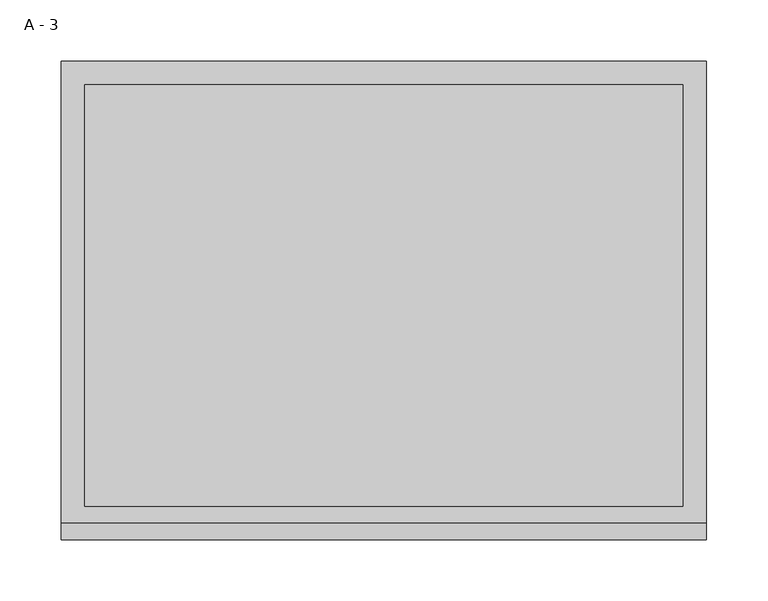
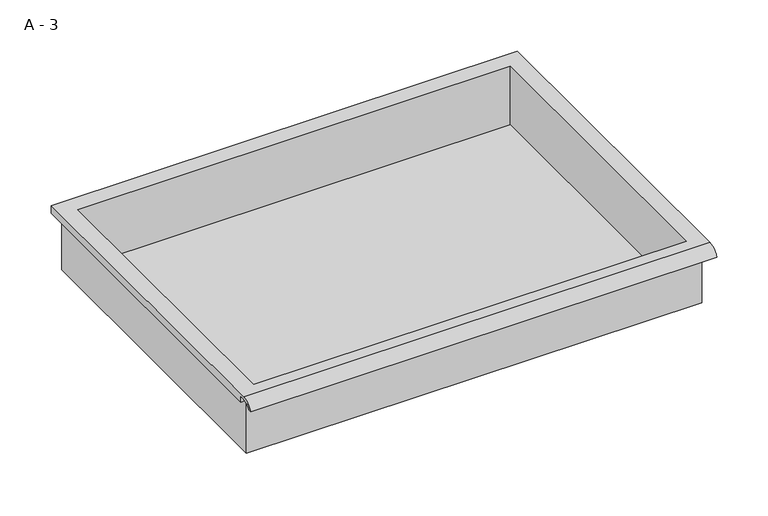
"""IFC4 building model written with IfcOpenShell, lengths in millimetres: furniture geometry, HermanMiller_CoStruc_CO207_Drawer : A - 3."""

import ifcopenshell
import ifcopenshell.guid

model = None  # the IFC model being written
_history = None  # IfcOwnerHistory: only IFC2X3 demands one
_inside = {}  # id of a spatial element -> (the spatial element, [elements in it])
_under = {}  # id of a project, library or spatial element -> (it, [spatial elements below it])
_declared = {}  # id of a project -> (the project, [libraries it declares])
_typed = {}  # id of a type object -> (the type object, [elements of that type])
_made_of = {}  # id of a material, layer set ... -> (it, [elements and type objects made of it])


def new_model(schema):
    """Start an empty IFC model of exactly this schema.

    Asked for "IFC4X3", IfcOpenShell would pick the latest addendum, in which some entities
    have other attributes; the version numbers below select the first issue.
    IFC2X3 requires an IfcOwnerHistory on every rooted entity: one is made here for all.
    """
    global model, _history
    if schema == "IFC4X3":
        model = ifcopenshell.file(schema_version=(4, 3, 0, 0))
    else:
        model = ifcopenshell.file(schema=schema)
    _inside.clear()
    _under.clear()
    _declared.clear()
    _typed.clear()
    _made_of.clear()
    _history = None
    if model.schema == "IFC2X3":
        org = make("IfcOrganization", Name="unknown")
        user = make(
            "IfcPersonAndOrganization",
            ThePerson=make("IfcPerson", FamilyName="unknown"),
            TheOrganization=org,
        )
        app = make(
            "IfcApplication",
            ApplicationDeveloper=org,
            Version="unknown",
            ApplicationFullName="unknown",
            ApplicationIdentifier="unknown",
        )
        _history = make(
            "IfcOwnerHistory",
            OwningUser=user,
            OwningApplication=app,
            ChangeAction="ADDED",
            CreationDate=0,
        )
    return model


def make(cls, **values):
    """One entity of the class cls with the attributes given. An attribute that is None is left unset."""
    return model.create_entity(
        cls, **{name: value for name, value in values.items() if value is not None}
    )


def rooted(cls, **values):
    """An entity with a GlobalId (a new one), such as an element, a storey or a relation."""
    return make(cls, GlobalId=ifcopenshell.guid.new(), OwnerHistory=_history, **values)


def si_unit(unit_type, name, prefix=None):
    """IfcSIUnit, for example si_unit("LENGTHUNIT", "METRE", prefix="MILLI")."""
    return make("IfcSIUnit", UnitType=unit_type, Prefix=prefix, Name=name)


def assignment(units):
    """IfcUnitAssignment: the units of a project."""
    return None if units is None else make("IfcUnitAssignment", Units=units)


def point(xyz):
    """IfcCartesianPoint."""
    return None if xyz is None else make("IfcCartesianPoint", Coordinates=xyz)


def direction(xyz):
    """IfcDirection."""
    return None if xyz is None else make("IfcDirection", DirectionRatios=xyz)


def frame(location, z_axis=None, x_axis=None):
    """IfcAxis2Placement3D, a coordinate frame: its origin and axes. An axis left out is left unset."""
    return make(
        "IfcAxis2Placement3D",
        Location=point(location),
        Axis=direction(z_axis),
        RefDirection=direction(x_axis),
    )


def origin():
    """The frame at (0, 0, 0) with its axes left unset."""
    return frame((0.0, 0.0, 0.0))


def place(relative_to, where):
    """IfcLocalPlacement: puts the frame where relative to a parent placement (None: the world)."""
    return make(
        "IfcLocalPlacement", PlacementRelTo=relative_to, RelativePlacement=where
    )


def context(
    kind, dimensions, precision=None, world=None, true_north=None, identifier=None
):
    """IfcGeometricRepresentationContext, for example the 3D "Model" context."""
    return make(
        "IfcGeometricRepresentationContext",
        ContextIdentifier=identifier,
        ContextType=kind,
        CoordinateSpaceDimension=dimensions,
        Precision=precision,
        WorldCoordinateSystem=world,
        TrueNorth=true_north,
    )


def project(units=None, contexts=None):
    """IfcProject with its units and contexts."""
    return rooted(
        "IfcProject",
        Name="project",
        RepresentationContexts=contexts,
        UnitsInContext=assignment(units),
    )


def spatial(cls, under=None, at=None, **own):
    """A site, building, storey or space (cls), placed at a placement, below another one or the project."""
    s = rooted(cls, ObjectPlacement=at, **own)
    if under is not None:
        _under.setdefault(under.id(), (under, []))[1].append(s)
    return s


def polyline(points):
    """IfcPolyline through the points."""
    return make("IfcPolyline", Points=[point(p) for p in points])


def circle_curve(where, radius):
    """IfcCircle in the frame where."""
    return make("IfcCircle", Position=where, Radius=radius)


def shape(context_of_items, identifier, shape_type, items):
    """IfcShapeRepresentation: the items that make up one representation, for example the "Body"."""
    return make(
        "IfcShapeRepresentation",
        ContextOfItems=context_of_items,
        RepresentationIdentifier=identifier,
        RepresentationType=shape_type,
        Items=items,
    )


def source(mapping_origin, context_of_items, identifier, shape_type, items):
    """IfcRepresentationMap: a shape defined once, which mapped items show again and again."""
    return make(
        "IfcRepresentationMap",
        MappingOrigin=mapping_origin,
        MappedRepresentation=shape(context_of_items, identifier, shape_type, items),
    )


def transform(
    local_origin,
    x_axis=None,
    y_axis=None,
    z_axis=None,
    scale=None,
    scale2=None,
    scale3=None,
    uniform=True,
):
    """IfcCartesianTransformationOperator3D, or its non-uniform kind. x_axis, y_axis, z_axis: its Axis1, 2, 3."""
    if uniform:
        return make(
            "IfcCartesianTransformationOperator3D",
            Axis1=direction(x_axis),
            Axis2=direction(y_axis),
            LocalOrigin=point(local_origin),
            Scale=scale,
            Axis3=direction(z_axis),
        )
    return make(
        "IfcCartesianTransformationOperator3DnonUniform",
        Axis1=direction(x_axis),
        Axis2=direction(y_axis),
        LocalOrigin=point(local_origin),
        Scale=scale,
        Axis3=direction(z_axis),
        Scale2=scale2,
        Scale3=scale3,
    )


def mapped(mapping_source, mapping_target):
    """IfcMappedItem: shows the shape of a source again, moved by a transform."""
    return make(
        "IfcMappedItem", MappingSource=mapping_source, MappingTarget=mapping_target
    )


def made_of(thing, what):
    """Note that an element or type object is made of a material, layer set ...; save() writes the relation."""
    if what is not None:
        _made_of.setdefault(what.id(), (what, []))[1].append(thing)
    return thing


def element(
    cls,
    number,
    at=None,
    inside=None,
    cuts=None,
    type_object=None,
    material=None,
    context=None,
    identifier="Body",
    shape_type=None,
    held_by="IfcProductDefinitionShape",
    body=None,
    shapes=None,
    **own,
):
    """One element of the class cls, such as IfcWall. Its Tag is "e" and its number.

    at: its placement. inside: the storey or other place that contains it. cuts: it is an
    opening in that element (IfcRelVoidsElement). A single representation is given by context,
    identifier, shape_type and body (its items); several are given by shapes. held_by: the class
    of the entity that holds the representations. save() writes the other relations.
    """
    e = rooted(cls, Tag="e%d" % number, ObjectPlacement=at, **own)
    if body is not None:
        shapes = [shape(context, identifier, shape_type, body)]
    if shapes is not None:
        e.Representation = make(held_by, Representations=shapes)
    if inside is not None:
        _inside.setdefault(inside.id(), (inside, []))[1].append(e)
    if cuts is not None:
        rooted(
            "IfcRelVoidsElement", RelatingBuildingElement=cuts, RelatedOpeningElement=e
        )
    if type_object is not None:
        _typed.setdefault(type_object.id(), (type_object, []))[1].append(e)
    return made_of(e, material)


def aggregate(whole, parts):
    """IfcRelAggregates: a whole, such as a stair, and the parts it consists of."""
    return rooted("IfcRelAggregates", RelatingObject=whole, RelatedObjects=parts)


def save(model, path):
    """Write the relations noted so far, then the file.

    IfcRelAggregates (storeys below a building ...), IfcRelContainedInSpatialStructure (elements
    in a storey), IfcRelDefinesByType, IfcRelAssociatesMaterial and IfcRelDeclares: one each for
    every whole, place, type object, material and project.
    """
    for whole, parts in _under.values():
        aggregate(whole, parts)
    for where, things in _inside.values():
        rooted(
            "IfcRelContainedInSpatialStructure",
            RelatedElements=things,
            RelatingStructure=where,
        )
    for kind, things in _typed.values():
        rooted("IfcRelDefinesByType", RelatedObjects=things, RelatingType=kind)
    for what, things in _made_of.values():
        rooted("IfcRelAssociatesMaterial", RelatedObjects=things, RelatingMaterial=what)
    for by, libraries in _declared.values():
        rooted("IfcRelDeclares", RelatingContext=by, RelatedDefinitions=libraries)
    model.write(path)


def plane_surface(at):
    """IfcPlane: the flat surface through the origin of the frame at, square to its z axis."""
    return make("IfcPlane", Position=at)


def cylinder_surface(at, radius):
    """IfcCylindricalSurface: all points at the distance radius from the z axis of the frame at."""
    return make("IfcCylindricalSurface", Position=at, Radius=radius)


def revolved_surface(curve, axis_point, axis_direction):
    """IfcSurfaceOfRevolution: the curve turned about the line through axis_point along axis_direction."""
    return make(
        "IfcSurfaceOfRevolution",
        SweptCurve=make("IfcArbitraryOpenProfileDef", ProfileType="CURVE", Curve=curve),
        AxisPosition=make("IfcAxis1Placement", Location=point(axis_point), Axis=direction(axis_direction)),
    )


def advanced_brep(points, edges, surfaces, faces):
    """IfcAdvancedBrep: a solid bounded by faces that lie on surfaces and meet in shared edges.

    An edge is (start, end): straight between two places in points (the first is 0);
    or (start, end, curve); or (start, end, curve, False) where it runs against its curve.
    A face is (place in surfaces, loops), or (place, loops, False) where it looks against
    its surface's normal. A loop lists edges by number (the first is 1), with a minus sign
    where the edge is run from its end to its start. The first loop is the outer one.
    """
    corners = [point(p) for p in points]
    vertices = [make("IfcVertexPoint", VertexGeometry=c) for c in corners]
    made = []
    for start, end, *more in edges:
        made.append(
            make(
                "IfcEdgeCurve",
                EdgeStart=vertices[start],
                EdgeEnd=vertices[end],
                EdgeGeometry=more[0] if more else make("IfcPolyline", Points=[corners[start], corners[end]]),
                SameSense=more[1] if len(more) > 1 else True,
            )
        )
    hull = []
    for where, loops, *sense in faces:
        bounds = []
        for j, loop in enumerate(loops):
            ring = [make("IfcOrientedEdge", EdgeElement=made[abs(k) - 1], Orientation=k > 0) for k in loop]
            bounds.append(
                make(
                    "IfcFaceOuterBound" if j == 0 else "IfcFaceBound",
                    Bound=make("IfcEdgeLoop", EdgeList=ring),
                    Orientation=True,
                )
            )
        hull.append(make("IfcAdvancedFace", Bounds=bounds, FaceSurface=surfaces[where], SameSense=sense[0] if sense else True))
    return make("IfcAdvancedBrep", Outer=make("IfcClosedShell", CfsFaces=hull))


def a_3_f482e030(model_context):
    return source(origin(), model_context, "Body", "AdvancedBrep", [
        advanced_brep(
        [(-257.1076517, -176.2125, 814.4002), (257.2423483, -176.2125, 814.4002), (257.2423483, -176.2125, 877.9002), (263.5923483, -176.2125, 877.9002), (263.5923483, -176.2125, 884.2073341), (-263.4576517, -176.2125, 884.2073341), (-263.4576517, -176.2125, 877.9002), (-257.1076517, -176.2125, 877.9002), (257.2423483, 185.7375, 814.4002), (-257.1076517, 185.7375, 814.4002), (-257.1076517, 185.7375, 877.9002), (257.2423483, 185.7375, 877.9002), (263.5923483, -181.6070544, 887.4252), (263.5923483, 195.2625, 887.4252), (-263.4576517, 195.2625, 887.4252), (-263.4576517, -181.6070544, 887.4252), (244.5423483, -168.275, 887.4252), (-244.4076517, -168.275, 887.4252), (-244.4076517, 176.2125, 887.4252), (244.5423483, 176.2125, 887.4252), (263.5923483, -195.2625, 877.9002), (263.5923483, -191.8280601, 877.9002), (263.5923483, -180.4714815, 884.2073341), (263.5923483, 195.2625, 877.9002), (-263.4576517, 195.2625, 877.9002), (-263.4576517, -180.4714815, 884.2073341), (-263.4576517, -191.8280601, 877.9002), (-263.4576517, -195.2625, 877.9002), (-244.4076517, -168.275, 817.4263719), (244.5423483, -168.275, 817.4263719), (244.5423483, 176.2125, 817.4263719), (-244.4076517, 176.2125, 817.4263719)],
        [
            (0, 1),
            (1, 2),
            (2, 3),
            (3, 4),
            (4, 5),
            (5, 6),
            (6, 7),
            (7, 0),
            (8, 9),
            (9, 10),
            (10, 11),
            (11, 8),
            (0, 9),
            (8, 1),
            (11, 2),
            (12, 13),
            (13, 14),
            (14, 15),
            (15, 12),
            (16, 17),
            (17, 18),
            (18, 19),
            (19, 16),
            (7, 10),
            (12, 20, circle_curve(frame((263.5923483, -181.6070544, 872.8741859), z_axis=(1.0, 0.0, 0.0), x_axis=(0.0, 1.0, 0.0)), 14.5510141)),
            (20, 21),
            (21, 22, circle_curve(frame((263.5923483, -181.6070544, 872.8741859), z_axis=(-1.0, 0.0, 0.0), x_axis=(0.0, 1.0, 0.0)), 11.3898979)),
            (22, 4),
            (3, 23),
            (23, 13),
            (14, 24),
            (24, 6),
            (5, 25),
            (25, 26, circle_curve(frame((-263.4576517, -181.6070544, 872.8741859), z_axis=(1.0, 0.0, 0.0), x_axis=(0.0, 1.0, 0.0)), 11.3898979)),
            (26, 27),
            (27, 15, circle_curve(frame((-263.4576517, -181.6070544, 872.8741859), z_axis=(-1.0, 0.0, 0.0), x_axis=(0.0, 1.0, 0.0)), 14.5510141)),
            (27, 20),
            (26, 21),
            (25, 22),
            (24, 23),
            (28, 29),
            (29, 30),
            (30, 31),
            (31, 28),
            (28, 17),
            (16, 29),
            (19, 30),
            (18, 31),
        ],
        [
            plane_surface(frame((257.2423483, -176.2125, 814.4002), z_axis=(0.0, -1.0, 0.0), x_axis=(1.0, 0.0, 0.0))),
            plane_surface(frame((257.2423483, 185.7375, 814.4002), z_axis=(0.0, 1.0, 0.0), x_axis=(-1.0, 0.0, 0.0))),
            plane_surface(frame((-257.1076517, -176.2125, 814.4002), z_axis=(0.0, 0.0, -1.0), x_axis=(0.0, 1.0, 0.0))),
            plane_surface(frame((257.2423483, -176.2125, 814.4002), z_axis=(1.0, 0.0, 0.0), x_axis=(0.0, 1.0, 0.0))),
            plane_surface(frame((257.2423483, -176.2125, 887.4252), z_axis=(0.0, 0.0, 1.0), x_axis=(0.0, 1.0, 0.0))),
            plane_surface(frame((-257.1076517, -176.2125, 887.4252), z_axis=(-1.0, 0.0, 0.0), x_axis=(0.0, 1.0, 0.0))),
            plane_surface(frame((263.5923483, 195.2625, 887.4252), z_axis=(1.0, 0.0, 0.0), x_axis=(0.0, -1.0, 0.0))),
            plane_surface(frame((-263.4576517, 195.2625, 887.4252), z_axis=(-1.0, 0.0, 0.0), x_axis=(0.0, 1.0, 0.0))),
            cylinder_surface(frame((-263.4576517, -181.6070544, 872.8741859), z_axis=(1.0, 0.0, 0.0), x_axis=(0.0, 1.0, 0.0)), 14.5510141),
            plane_surface(frame((263.5923483, -195.2625, 877.9002), z_axis=(0.0, -7.172997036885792e-12, -1.0), x_axis=(-1.0, 0.0, 0.0))),
            revolved_surface(polyline([(-263.4576517, -170.21715650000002, 872.8741859), (263.59234829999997, -170.21715650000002, 872.8741859)]), (-263.4576517, -181.6070544, 872.8741859), (-1.0, 0.0, 0.0)),
            plane_surface(frame((263.5923483, -180.4714815, 884.2073341), z_axis=(0.0, -1.773428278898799e-11, -1.0), x_axis=(-1.0, 0.0, 0.0))),
            plane_surface(frame((263.5923483, -176.2125, 877.9002), z_axis=(0.0, 0.0, -1.0), x_axis=(-1.0, 0.0, 0.0))),
            plane_surface(frame((263.5923483, 195.2625, 877.9002), z_axis=(0.0, 1.0, 0.0), x_axis=(-1.0, 0.0, 0.0))),
            plane_surface(frame((244.5423483, -168.275, 817.4263719), z_axis=(0.0, 0.0, 1.0), x_axis=(-1.0, 0.0, 0.0))),
            plane_surface(frame((-244.4076517, -168.275, 887.4252), z_axis=(0.0, 1.0, 0.0), x_axis=(0.0, 0.0, -1.0))),
            plane_surface(frame((244.5423483, -168.275, 887.4252), z_axis=(-1.0, 0.0, 0.0), x_axis=(0.0, 0.0, -1.0))),
            plane_surface(frame((244.5423483, 176.2125, 887.4252), z_axis=(0.0, -1.0, 0.0), x_axis=(0.0, 0.0, -1.0))),
            plane_surface(frame((-244.4076517, 176.2125, 887.4252), z_axis=(1.0, 0.0, 0.0), x_axis=(0.0, 0.0, -1.0))),
        ],
        [
            (0, [[1, 2, 3, 4, 5, 6, 7, 8]]),
            (1, [[9, 10, 11, 12]]),
            (2, [[-1, 13, -9, 14]]),
            (3, [[-14, -12, 15, -2]]),
            (4, [[16, 17, 18, 19], [20, 21, 22, 23]]),
            (5, [[-13, -8, 24, -10]]),
            (6, [[-16, 25, 26, 27, 28, -4, 29, 30]]),
            (7, [[31, 32, -6, 33, 34, 35, 36, -18]]),
            (8, [[-25, -19, -36, 37]]),
            (9, [[-26, -37, -35, 38]]),
            (10, [[-27, -38, -34, 39]]),
            (11, [[-28, -39, -33, -5]]),
            (12, [[-29, -3, -15, -11, -24, -7, -32, 40]]),
            (13, [[-30, -40, -31, -17]]),
            (14, [[41, 42, 43, 44]]),
            (15, [[-41, 45, -20, 46]]),
            (16, [[-42, -46, -23, 47]]),
            (17, [[-43, -47, -22, 48]]),
            (18, [[-44, -48, -21, -45]]),
        ],
    ),
    ])


if __name__ == "__main__":
    model = new_model("IFC4")
    model_context = context("Model", 3, world=origin())
    ifc_project = project(units=[si_unit("LENGTHUNIT", "METRE", prefix="MILLI")], contexts=[model_context])
    site = spatial("IfcSite", under=ifc_project)
    building = spatial("IfcBuilding", under=site)
    placement = place(None, origin())
    a_3_shape = a_3_f482e030(model_context)
    element("IfcFurniture", 1, ObjectType="HermanMiller_CoStruc_CO207_Drawer : A - 3", at=placement, inside=building, context=model_context, shape_type="MappedRepresentation", body=[
        mapped(a_3_shape, transform((0.0, 0.0, 0.0), x_axis=(1.0, 0.0, 0.0), y_axis=(0.0, 1.0, 0.0), z_axis=(0.0, 0.0, 1.0))),
    ])
    save(model, "model.ifc")
